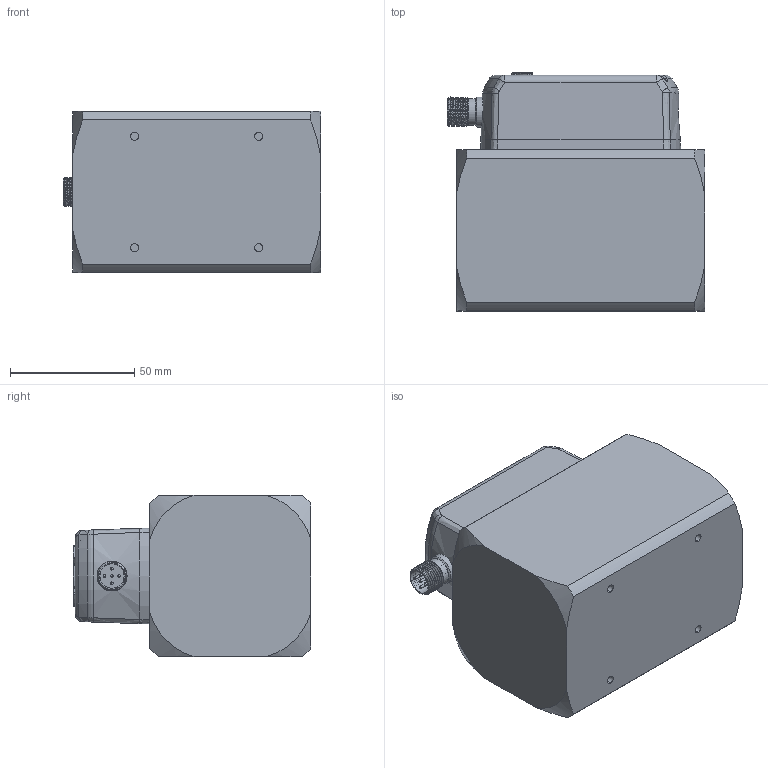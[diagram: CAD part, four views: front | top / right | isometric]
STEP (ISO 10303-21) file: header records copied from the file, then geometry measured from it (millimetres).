
FILE_DESCRIPTION( (''), '2;1');
FILE_NAME( 'QEKH_DN32_female-thread_standard.step', '2025-04-28T16:06:52+08:00', (''), (''), '', '', '');
FILE_SCHEMA (('AUTOMOTIVE_DESIGN { 1 0 10303 214 3 1 1 1 }'));
Length unit declared in the file: millimetre
Products named in the file (1): QEKH DN32_female-thread_standard
Bounding box: 103.71 x 95.9 x 65 mm (x, y, z)
Volume: 519105.5 mm3; surface area: 67330.6 mm2
Topology: 9 solids, 12 shells, 1092 faces, 2882 edges, 1884 vertices
Faces by surface type: plane 537, extrusion 239, cylinder 181, cone 50, bspline 44, torus 32, sphere 9
Full cylindrical faces by diameter (mm): 1 x10, 2.6 x4, 2.7 x5, 3.1 x1, 3.5 x7, 4.5 x4, 9.8 x2, 10.8 x1, 11.992 x2, 12 x4
Entity records: 37756 total; most frequent: CARTESIAN_POINT 11855, ORIENTED_EDGE 5580, DIRECTION 4457, EDGE_CURVE 2790, VECTOR 1875, VERTEX_POINT 1852, LINE 1636, AXIS2_PLACEMENT_3D 1291
